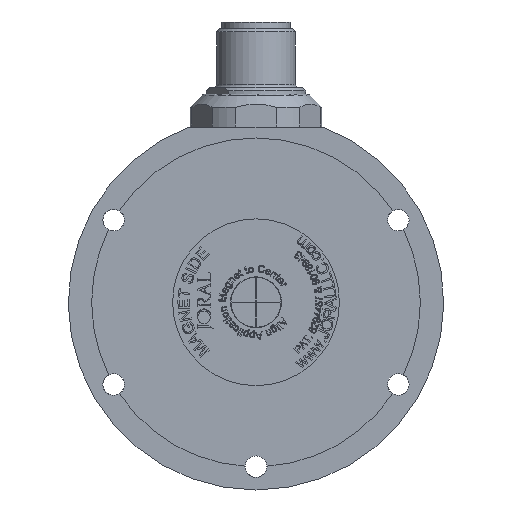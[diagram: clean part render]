
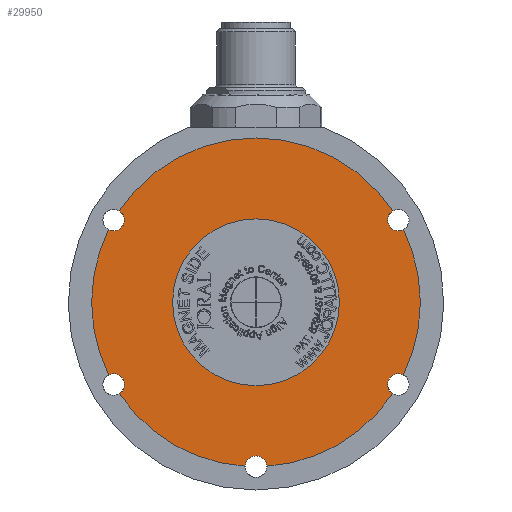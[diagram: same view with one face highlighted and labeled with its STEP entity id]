
A CAD part, left-side view. The second image highlights one B-rep face of the part: STEP entity #29950.
In plain terms, the highlighted planar face has unit normal (-1, 0, 0).
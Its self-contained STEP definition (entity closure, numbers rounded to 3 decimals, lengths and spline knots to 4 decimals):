
#2710=FACE_BOUND('',#6196,.T.);
#2741=CIRCLE('',#30686,0.5);
#2746=CIRCLE('',#30694,0.0645);
#2749=CIRCLE('',#30698,0.0645);
#2751=CIRCLE('',#30700,0.0645);
#2753=CIRCLE('',#30703,0.0645);
#2755=CIRCLE('',#30705,0.0645);
#2758=CIRCLE('',#30709,0.0645);
#2762=CIRCLE('',#30714,0.0645);
#2770=CIRCLE('',#30724,0.985);
#2771=CIRCLE('',#30726,0.985);
#2772=CIRCLE('',#30728,0.985);
#2773=CIRCLE('',#30730,0.985);
#2781=CIRCLE('',#30741,0.985);
#4465=FACE_OUTER_BOUND('',#6195,.T.);
#6195=EDGE_LOOP('',(#27627,#27628,#27629,#27630,#27631,#27632,#27633,#27634,
#27635,#27636,#27637,#27638));
#6196=EDGE_LOOP('',(#27639));
#14248=VERTEX_POINT('',#58142);
#14254=VERTEX_POINT('',#58158);
#14255=VERTEX_POINT('',#58160);
#14258=VERTEX_POINT('',#58168);
#14259=VERTEX_POINT('',#58170);
#14262=VERTEX_POINT('',#58176);
#14264=VERTEX_POINT('',#58182);
#14265=VERTEX_POINT('',#58184);
#14268=VERTEX_POINT('',#58190);
#14272=VERTEX_POINT('',#58200);
#14273=VERTEX_POINT('',#58202);
#14278=VERTEX_POINT('',#58214);
#14279=VERTEX_POINT('',#58216);
#18616=EDGE_CURVE('',#14248,#14248,#2741,.T.);
#18623=EDGE_CURVE('',#14255,#14254,#2746,.T.);
#18628=EDGE_CURVE('',#14259,#14258,#2749,.T.);
#18632=EDGE_CURVE('',#14258,#14262,#2751,.T.);
#18635=EDGE_CURVE('',#14265,#14264,#2753,.T.);
#18639=EDGE_CURVE('',#14264,#14268,#2755,.T.);
#18644=EDGE_CURVE('',#14273,#14272,#2758,.T.);
#18651=EDGE_CURVE('',#14279,#14278,#2762,.T.);
#18661=EDGE_CURVE('',#14265,#14278,#2770,.T.);
#18662=EDGE_CURVE('',#14255,#14272,#2771,.T.);
#18663=EDGE_CURVE('',#14259,#14268,#2772,.T.);
#18664=EDGE_CURVE('',#14273,#14262,#2773,.T.);
#18682=EDGE_CURVE('',#14279,#14254,#2781,.T.);
#27627=ORIENTED_EDGE('',*,*,#18623,.T.);
#27628=ORIENTED_EDGE('',*,*,#18682,.F.);
#27629=ORIENTED_EDGE('',*,*,#18651,.T.);
#27630=ORIENTED_EDGE('',*,*,#18661,.F.);
#27631=ORIENTED_EDGE('',*,*,#18635,.T.);
#27632=ORIENTED_EDGE('',*,*,#18639,.T.);
#27633=ORIENTED_EDGE('',*,*,#18663,.F.);
#27634=ORIENTED_EDGE('',*,*,#18628,.T.);
#27635=ORIENTED_EDGE('',*,*,#18632,.T.);
#27636=ORIENTED_EDGE('',*,*,#18664,.F.);
#27637=ORIENTED_EDGE('',*,*,#18644,.T.);
#27638=ORIENTED_EDGE('',*,*,#18662,.F.);
#27639=ORIENTED_EDGE('',*,*,#18616,.F.);
#28350=PLANE('',#30830);
#29950=ADVANCED_FACE('',(#4465,#2710),#28350,.T.);
#30686=AXIS2_PLACEMENT_3D('',#58144,#34811,#34812);
#30694=AXIS2_PLACEMENT_3D('',#58161,#34829,#34830);
#30698=AXIS2_PLACEMENT_3D('',#58171,#34839,#34840);
#30700=AXIS2_PLACEMENT_3D('',#58178,#34845,#34846);
#30703=AXIS2_PLACEMENT_3D('',#58185,#34852,#34853);
#30705=AXIS2_PLACEMENT_3D('',#58192,#34858,#34859);
#30709=AXIS2_PLACEMENT_3D('',#58203,#34868,#34869);
#30714=AXIS2_PLACEMENT_3D('',#58217,#34881,#34882);
#30724=AXIS2_PLACEMENT_3D('',#58232,#34903,#34904);
#30726=AXIS2_PLACEMENT_3D('',#58234,#34907,#34908);
#30728=AXIS2_PLACEMENT_3D('',#58236,#34911,#34912);
#30730=AXIS2_PLACEMENT_3D('',#58238,#34915,#34916);
#30741=AXIS2_PLACEMENT_3D('',#58274,#34947,#34948);
#30830=AXIS2_PLACEMENT_3D('',#58817,#35168,#35169);
#34811=DIRECTION('center_axis',(-1.,0.,0.));
#34812=DIRECTION('ref_axis',(0.,0.,1.));
#34829=DIRECTION('center_axis',(1.,0.,0.));
#34830=DIRECTION('ref_axis',(0.,1.,0.));
#34839=DIRECTION('center_axis',(1.,0.,0.));
#34840=DIRECTION('ref_axis',(0.,1.,0.));
#34845=DIRECTION('center_axis',(1.,0.,0.));
#34846=DIRECTION('ref_axis',(0.,1.,0.));
#34852=DIRECTION('center_axis',(1.,0.,0.));
#34853=DIRECTION('ref_axis',(0.,1.,0.));
#34858=DIRECTION('center_axis',(1.,0.,0.));
#34859=DIRECTION('ref_axis',(0.,1.,0.));
#34868=DIRECTION('center_axis',(1.,0.,0.));
#34869=DIRECTION('ref_axis',(0.,1.,0.));
#34881=DIRECTION('center_axis',(1.,0.,0.));
#34882=DIRECTION('ref_axis',(0.,1.,0.));
#34903=DIRECTION('center_axis',(1.,0.,0.));
#34904=DIRECTION('ref_axis',(0.,0.,-1.));
#34907=DIRECTION('center_axis',(1.,0.,0.));
#34908=DIRECTION('ref_axis',(0.,0.,-1.));
#34911=DIRECTION('center_axis',(1.,0.,0.));
#34912=DIRECTION('ref_axis',(0.,0.,-1.));
#34915=DIRECTION('center_axis',(1.,0.,0.));
#34916=DIRECTION('ref_axis',(0.,0.,-1.));
#34947=DIRECTION('center_axis',(1.,0.,0.));
#34948=DIRECTION('ref_axis',(0.,0.,-1.));
#35168=DIRECTION('center_axis',(-1.,0.,0.));
#35169=DIRECTION('ref_axis',(0.,0.,1.));
#58142=CARTESIAN_POINT('',(0.,0.,-0.5));
#58144=CARTESIAN_POINT('Origin',(0.,0.,0.));
#58158=CARTESIAN_POINT('',(0.,-0.8834,-0.4356));
#58160=CARTESIAN_POINT('',(0.,-0.819,-0.5473));
#58161=CARTESIAN_POINT('Origin',(0.,-0.853,-0.4925));
#58168=CARTESIAN_POINT('',(0.,0.7885,-0.4925));
#58170=CARTESIAN_POINT('',(0.,0.8834,-0.4356));
#58171=CARTESIAN_POINT('Origin',(0.,0.853,-0.4925));
#58176=CARTESIAN_POINT('',(0.,0.819,-0.5473));
#58178=CARTESIAN_POINT('Origin',(0.,0.853,-0.4925));
#58182=CARTESIAN_POINT('',(0.,0.7885,0.4925));
#58184=CARTESIAN_POINT('',(0.,0.819,0.5473));
#58185=CARTESIAN_POINT('Origin',(0.,0.853,0.4925));
#58190=CARTESIAN_POINT('',(0.,0.8834,0.4356));
#58192=CARTESIAN_POINT('Origin',(0.,0.853,0.4925));
#58200=CARTESIAN_POINT('',(0.,-0.0645,-0.9829));
#58202=CARTESIAN_POINT('',(0.,0.0645,-0.9829));
#58203=CARTESIAN_POINT('Origin',(0.,0.,-0.985));
#58214=CARTESIAN_POINT('',(0.,-0.819,0.5473));
#58216=CARTESIAN_POINT('',(0.,-0.8834,0.4356));
#58217=CARTESIAN_POINT('Origin',(0.,-0.853,0.4925));
#58232=CARTESIAN_POINT('Origin',(0.,0.,0.));
#58234=CARTESIAN_POINT('Origin',(0.,0.,0.));
#58236=CARTESIAN_POINT('Origin',(0.,0.,0.));
#58238=CARTESIAN_POINT('Origin',(0.,0.,0.));
#58274=CARTESIAN_POINT('Origin',(0.,0.,0.));
#58817=CARTESIAN_POINT('Origin',(0.,0.5125,0.));
